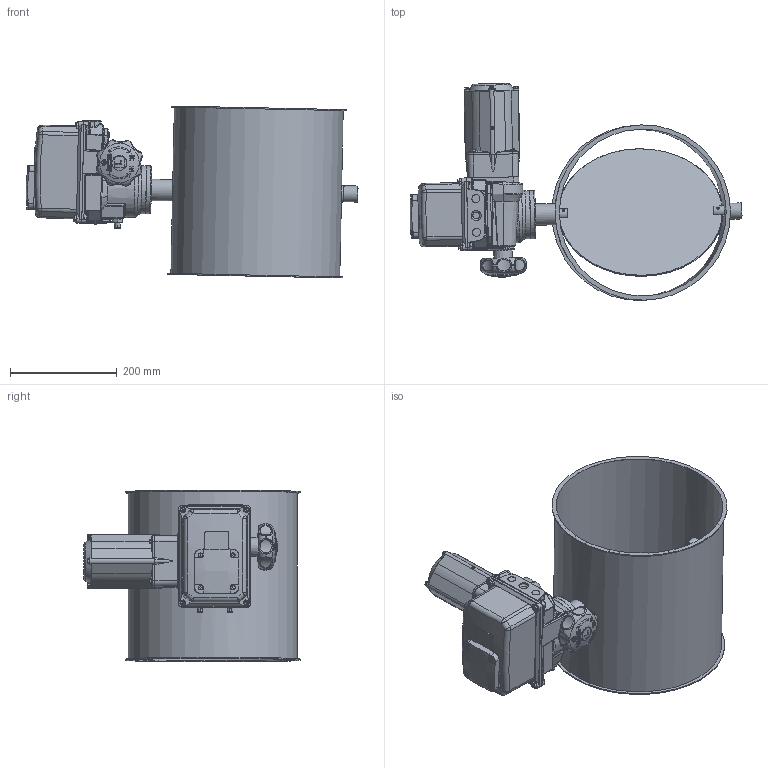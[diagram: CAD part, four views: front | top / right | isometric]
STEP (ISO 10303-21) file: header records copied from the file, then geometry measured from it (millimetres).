
FILE_DESCRIPTION((''),'2;1');
FILE_NAME('U:\Wolfgang\Marcel-3D\fertig\Kapitel 8\3121217.stp','2012-01-13T11:19:47',('iwienholt'),(''),'Autodesk Inventor 2010','Autodesk Inventor 2010','');
FILE_SCHEMA(('AUTOMOTIVE_DESIGN { 1 0 10303 214 1 1 1 1 }'));
Length unit declared in the file: millimetre
Products named in the file (7): 3121217; Bolzen D20; Scheibe315; D20 Antrieb OAP; BuchseD20 90-50; OAP; 3121217-
Assembly tree (7 placements, depth 3):
  3121217
    Bolzen D20  x2
    Scheibe315
    D20 Antrieb OAP
      BuchseD20 90-50
      OAP
    3121217-
Bounding box: 620.98 x 405.7 x 321.67 mm (x, y, z)
Volume: 6297270 mm3; surface area: 1080990.4 mm2
Topology: 6 solids, 6 shells, 1798 faces, 4675 edges, 3005 vertices
Faces by surface type: plane 968, cylinder 309, bspline 295, sphere 94, torus 83, cone 49
Full cylindrical faces by diameter (mm): 5 x4, 5.1 x8, 6 x4, 6.9 x8, 8 x4, 10 x4, 15 x2, 20 x4, 20.5 x1, 28 x1, 30 x2, 35 x1, 40 x2, 42 x1, 90 x1, 308 x1, 312 x1, 316 x1, 328 x2
Entity records: 73350 total; most frequent: CARTESIAN_POINT 30138, ORIENTED_EDGE 9004, DIRECTION 7959, EDGE_CURVE 4502, VERTEX_POINT 2953, AXIS2_PLACEMENT_3D 2876, VECTOR 2207, LINE 2207
